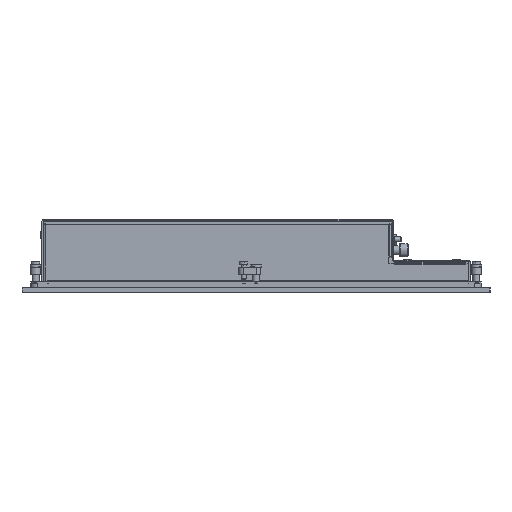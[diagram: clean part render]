
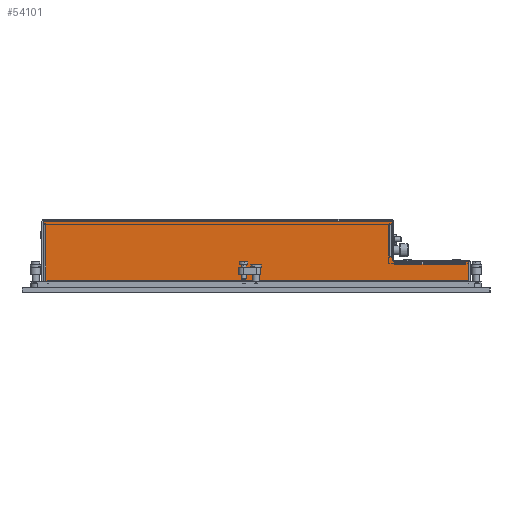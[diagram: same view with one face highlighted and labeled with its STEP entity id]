
A CAD part, left-side view. The second image highlights one B-rep face of the part: STEP entity #54101.
In plain terms, the highlighted planar face has unit normal (-1, 0, 0).
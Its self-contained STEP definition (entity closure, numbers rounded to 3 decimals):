
#2366=CARTESIAN_POINT('',(-243.7,170.,55.));
#2367=VERTEX_POINT('',#2366);
#3934=CARTESIAN_POINT('',(-243.7,-108.1,55.));
#3935=VERTEX_POINT('',#3934);
#8942=CARTESIAN_POINT('',(-243.7,170.,7.5));
#8943=VERTEX_POINT('',#8942);
#8951=CARTESIAN_POINT('',(-243.7,170.,55.));
#8952=DIRECTION('',(0.0,0.0,-1.0));
#8953=VECTOR('',#8952,47.5);
#8954=LINE('',#8951,#8953);
#8955=EDGE_CURVE('',#2367,#8943,#8954,.T.);
#19080=CARTESIAN_POINT('',(-243.7,-172.,24.));
#19081=VERTEX_POINT('',#19080);
#19088=CARTESIAN_POINT('',(-243.7,-172.,9.5));
#19089=VERTEX_POINT('',#19088);
#19090=CARTESIAN_POINT('',(-243.7,-172.,9.5));
#19091=DIRECTION('',(0.0,0.0,1.0));
#19092=VECTOR('',#19091,14.5);
#19093=LINE('',#19090,#19092);
#19094=EDGE_CURVE('',#19089,#19081,#19093,.T.);
#19138=CARTESIAN_POINT('',(-243.7,-169.6,22.9));
#19139=VERTEX_POINT('',#19138);
#19146=CARTESIAN_POINT('',(-243.7,-169.6,24.9));
#19147=VERTEX_POINT('',#19146);
#19148=CARTESIAN_POINT('',(-243.7,-169.6,24.9));
#19149=DIRECTION('',(0.0,0.0,-1.0));
#19150=VECTOR('',#19149,2.);
#19151=LINE('',#19148,#19150);
#19152=EDGE_CURVE('',#19147,#19139,#19151,.T.);
#19338=CARTESIAN_POINT('',(-243.7,168.5,7.5));
#19339=VERTEX_POINT('',#19338);
#19346=CARTESIAN_POINT('',(-243.7,168.5,7.5));
#19347=DIRECTION('',(0.0,1.0,0.0));
#19348=VECTOR('',#19347,1.5);
#19349=LINE('',#19346,#19348);
#19350=EDGE_CURVE('',#19339,#8943,#19349,.T.);
#19387=CARTESIAN_POINT('',(-243.7,-169.1,22.9));
#19388=VERTEX_POINT('',#19387);
#19395=CARTESIAN_POINT('',(-243.7,-169.35,22.9));
#19396=DIRECTION('',(1.0,0.0,0.0));
#19397=DIRECTION('',(0.0,1.0,0.0));
#19398=AXIS2_PLACEMENT_3D('',#19395,#19396,#19397);
#19399=CIRCLE('',#19398,0.25);
#19400=EDGE_CURVE('',#19139,#19388,#19399,.T.);
#19489=CARTESIAN_POINT('',(-243.7,-112.2,22.9));
#19490=VERTEX_POINT('',#19489);
#19522=CARTESIAN_POINT('',(-243.7,-111.7,22.9));
#19523=VERTEX_POINT('',#19522);
#19530=CARTESIAN_POINT('',(-243.7,-111.95,22.9));
#19531=DIRECTION('',(1.0,0.0,0.0));
#19532=DIRECTION('',(0.0,-1.0,0.0));
#19533=AXIS2_PLACEMENT_3D('',#19530,#19531,#19532);
#19534=CIRCLE('',#19533,0.25);
#19535=EDGE_CURVE('',#19490,#19523,#19534,.T.);
#19549=CARTESIAN_POINT('',(-243.7,-111.7,24.96));
#19550=VERTEX_POINT('',#19549);
#19557=CARTESIAN_POINT('',(-243.7,-111.7,22.9));
#19558=DIRECTION('',(0.0,0.0,1.0));
#19559=VECTOR('',#19558,2.06);
#19560=LINE('',#19557,#19559);
#19561=EDGE_CURVE('',#19523,#19550,#19560,.T.);
#53882=CARTESIAN_POINT('',(-243.7,168.,9.5));
#53883=VERTEX_POINT('',#53882);
#53884=CARTESIAN_POINT('',(-243.7,168.,9.5));
#53885=DIRECTION('',(0.0,-1.0,0.0));
#53886=VECTOR('',#53885,340.);
#53887=LINE('',#53884,#53886);
#53888=EDGE_CURVE('',#53883,#19089,#53887,.T.);
#53932=CARTESIAN_POINT('',(-243.7,168.5,9.5));
#53933=VERTEX_POINT('',#53932);
#53934=CARTESIAN_POINT('',(-243.7,168.25,9.5));
#53935=DIRECTION('',(1.0,0.0,0.0));
#53936=DIRECTION('',(0.0,-1.0,0.0));
#53937=AXIS2_PLACEMENT_3D('',#53934,#53935,#53936);
#53938=CIRCLE('',#53937,0.25);
#53939=EDGE_CURVE('',#53933,#53883,#53938,.T.);
#53957=CARTESIAN_POINT('',(-243.7,168.5,7.5));
#53958=DIRECTION('',(0.0,0.0,1.0));
#53959=VECTOR('',#53958,2.);
#53960=LINE('',#53957,#53959);
#53961=EDGE_CURVE('',#19339,#53933,#53960,.T.);
#53967=CARTESIAN_POINT('',(-243.7,29.95,33.25));
#53968=DIRECTION('',(1.0,0.0,0.0));
#53969=DIRECTION('',(0.0,0.0,-1.0));
#53970=AXIS2_PLACEMENT_3D('',#53967,#53968,#53969);
#53971=PLANE('',#53970);
#53972=ORIENTED_EDGE('',*,*,#53939,.T.);
#53973=ORIENTED_EDGE('',*,*,#53888,.T.);
#53974=ORIENTED_EDGE('',*,*,#19094,.T.);
#53975=CARTESIAN_POINT('',(-243.7,-171.1,24.9));
#53976=VERTEX_POINT('',#53975);
#53977=CARTESIAN_POINT('',(-243.7,-171.1,24.));
#53978=DIRECTION('',(1.0,0.,0.));
#53979=DIRECTION('',(0.,-0.707,0.707));
#53980=AXIS2_PLACEMENT_3D('',#53977,#53978,#53979);
#53981=CIRCLE('',#53980,0.9);
#53982=EDGE_CURVE('',#53976,#19081,#53981,.T.);
#53983=ORIENTED_EDGE('',*,*,#53982,.F.);
#53984=CARTESIAN_POINT('',(-243.7,-171.1,24.9));
#53985=DIRECTION('',(0.0,1.0,0.0));
#53986=VECTOR('',#53985,1.5);
#53987=LINE('',#53984,#53986);
#53988=EDGE_CURVE('',#53976,#19147,#53987,.T.);
#53989=ORIENTED_EDGE('',*,*,#53988,.T.);
#53990=ORIENTED_EDGE('',*,*,#19152,.T.);
#53991=ORIENTED_EDGE('',*,*,#19400,.T.);
#53992=CARTESIAN_POINT('',(-243.7,-169.1,22.9));
#53993=DIRECTION('',(0.0,1.0,0.0));
#53994=VECTOR('',#53993,56.9);
#53995=LINE('',#53992,#53994);
#53996=EDGE_CURVE('',#19388,#19490,#53995,.T.);
#53997=ORIENTED_EDGE('',*,*,#53996,.T.);
#53998=ORIENTED_EDGE('',*,*,#19535,.T.);
#53999=ORIENTED_EDGE('',*,*,#19561,.T.);
#54000=CARTESIAN_POINT('',(-243.7,-110.1,27.));
#54001=VERTEX_POINT('',#54000);
#54002=CARTESIAN_POINT('',(-243.7,-112.2,27.));
#54003=DIRECTION('',(-1.,0.,0.));
#54004=DIRECTION('',(0.,0.707,-0.707));
#54005=AXIS2_PLACEMENT_3D('',#54002,#54003,#54004);
#54006=CIRCLE('',#54005,2.1);
#54007=EDGE_CURVE('',#54001,#19550,#54006,.T.);
#54008=ORIENTED_EDGE('',*,*,#54007,.F.);
#54009=CARTESIAN_POINT('',(-243.7,-110.1,28.5));
#54010=VERTEX_POINT('',#54009);
#54011=CARTESIAN_POINT('',(-243.7,-110.1,27.));
#54012=DIRECTION('',(0.0,0.0,1.0));
#54013=VECTOR('',#54012,1.5);
#54014=LINE('',#54011,#54013);
#54015=EDGE_CURVE('',#54001,#54010,#54014,.T.);
#54016=ORIENTED_EDGE('',*,*,#54015,.T.);
#54017=CARTESIAN_POINT('',(-243.7,-108.1,28.5));
#54018=VERTEX_POINT('',#54017);
#54019=CARTESIAN_POINT('',(-243.7,-110.1,28.5));
#54020=DIRECTION('',(0.0,1.0,0.0));
#54021=VECTOR('',#54020,2.);
#54022=LINE('',#54019,#54021);
#54023=EDGE_CURVE('',#54010,#54018,#54022,.T.);
#54024=ORIENTED_EDGE('',*,*,#54023,.T.);
#54025=CARTESIAN_POINT('',(-243.7,-108.1,29.));
#54026=VERTEX_POINT('',#54025);
#54027=CARTESIAN_POINT('',(-243.7,-108.1,28.75));
#54028=DIRECTION('',(1.0,0.0,0.0));
#54029=DIRECTION('',(0.0,0.0,1.0));
#54030=AXIS2_PLACEMENT_3D('',#54027,#54028,#54029);
#54031=CIRCLE('',#54030,0.25);
#54032=EDGE_CURVE('',#54018,#54026,#54031,.T.);
#54033=ORIENTED_EDGE('',*,*,#54032,.T.);
#54034=CARTESIAN_POINT('',(-243.7,-108.1,29.));
#54035=DIRECTION('',(0.0,0.0,1.0));
#54036=VECTOR('',#54035,26.);
#54037=LINE('',#54034,#54036);
#54038=EDGE_CURVE('',#54026,#3935,#54037,.T.);
#54039=ORIENTED_EDGE('',*,*,#54038,.T.);
#54040=CARTESIAN_POINT('',(-243.7,-108.1,55.5));
#54041=VERTEX_POINT('',#54040);
#54042=CARTESIAN_POINT('',(-243.7,-108.1,55.25));
#54043=DIRECTION('',(1.0,0.0,0.0));
#54044=DIRECTION('',(0.0,0.0,-1.0));
#54045=AXIS2_PLACEMENT_3D('',#54042,#54043,#54044);
#54046=CIRCLE('',#54045,0.25);
#54047=EDGE_CURVE('',#3935,#54041,#54046,.T.);
#54048=ORIENTED_EDGE('',*,*,#54047,.T.);
#54049=CARTESIAN_POINT('',(-243.7,-110.1,55.5));
#54050=VERTEX_POINT('',#54049);
#54051=CARTESIAN_POINT('',(-243.7,-108.1,55.5));
#54052=DIRECTION('',(0.0,-1.0,0.0));
#54053=VECTOR('',#54052,2.);
#54054=LINE('',#54051,#54053);
#54055=EDGE_CURVE('',#54041,#54050,#54054,.T.);
#54056=ORIENTED_EDGE('',*,*,#54055,.T.);
#54057=CARTESIAN_POINT('',(-243.7,-110.1,57.));
#54058=VERTEX_POINT('',#54057);
#54059=CARTESIAN_POINT('',(-243.7,-110.1,55.5));
#54060=DIRECTION('',(0.0,0.0,1.0));
#54061=VECTOR('',#54060,1.5);
#54062=LINE('',#54059,#54061);
#54063=EDGE_CURVE('',#54050,#54058,#54062,.T.);
#54064=ORIENTED_EDGE('',*,*,#54063,.T.);
#54065=CARTESIAN_POINT('',(-243.7,172.,57.));
#54066=VERTEX_POINT('',#54065);
#54067=CARTESIAN_POINT('',(-243.7,-110.1,57.));
#54068=DIRECTION('',(0.0,1.0,0.0));
#54069=VECTOR('',#54068,282.1);
#54070=LINE('',#54067,#54069);
#54071=EDGE_CURVE('',#54058,#54066,#54070,.T.);
#54072=ORIENTED_EDGE('',*,*,#54071,.T.);
#54073=CARTESIAN_POINT('',(-243.7,172.,55.5));
#54074=VERTEX_POINT('',#54073);
#54075=CARTESIAN_POINT('',(-243.7,172.,55.5));
#54076=DIRECTION('',(0.0,0.0,1.0));
#54077=VECTOR('',#54076,1.5);
#54078=LINE('',#54075,#54077);
#54079=EDGE_CURVE('',#54074,#54066,#54078,.T.);
#54080=ORIENTED_EDGE('',*,*,#54079,.F.);
#54081=CARTESIAN_POINT('',(-243.7,170.,55.5));
#54082=VERTEX_POINT('',#54081);
#54083=CARTESIAN_POINT('',(-243.7,172.,55.5));
#54084=DIRECTION('',(0.0,-1.0,0.0));
#54085=VECTOR('',#54084,2.);
#54086=LINE('',#54083,#54085);
#54087=EDGE_CURVE('',#54074,#54082,#54086,.T.);
#54088=ORIENTED_EDGE('',*,*,#54087,.T.);
#54089=CARTESIAN_POINT('',(-243.7,170.,55.25));
#54090=DIRECTION('',(1.0,0.0,0.0));
#54091=DIRECTION('',(0.0,0.0,-1.0));
#54092=AXIS2_PLACEMENT_3D('',#54089,#54090,#54091);
#54093=CIRCLE('',#54092,0.25);
#54094=EDGE_CURVE('',#54082,#2367,#54093,.T.);
#54095=ORIENTED_EDGE('',*,*,#54094,.T.);
#54096=ORIENTED_EDGE('',*,*,#8955,.T.);
#54097=ORIENTED_EDGE('',*,*,#19350,.F.);
#54098=ORIENTED_EDGE('',*,*,#53961,.T.);
#54099=EDGE_LOOP('',(#53972,#53973,#53974,#53983,#53989,#53990,#53991,#53997,#53998,#53999,#54008,#54016,#54024,#54033,#54039,#54048,#54056,#54064,#54072,#54080,#54088,#54095,#54096,#54097,#54098));
#54100=FACE_OUTER_BOUND('',#54099,.T.);
#54101=ADVANCED_FACE('',(#54100),#53971,.F.);
